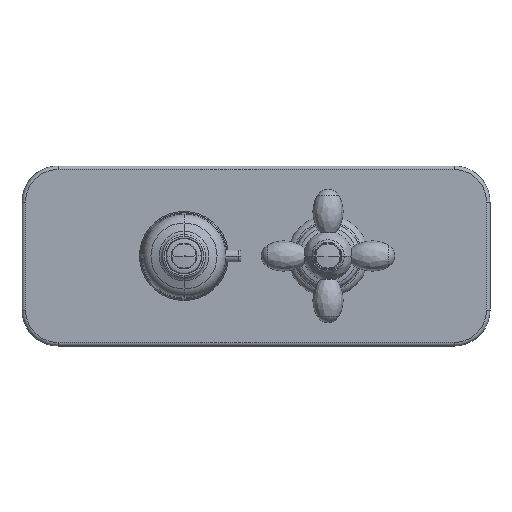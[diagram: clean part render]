
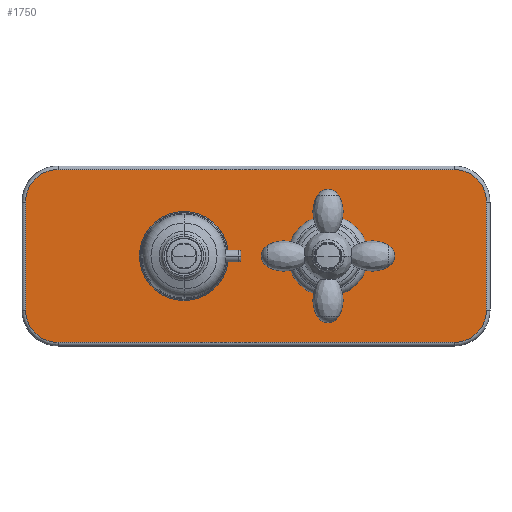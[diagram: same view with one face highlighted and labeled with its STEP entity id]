
A CAD part, left-side view. The second image highlights one B-rep face of the part: STEP entity #1750.
In plain terms, the highlighted planar face has unit normal (-1, 0, 0).
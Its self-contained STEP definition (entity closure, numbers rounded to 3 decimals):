
#283=CARTESIAN_POINT('',(-6.,110.,-30.));
#284=DIRECTION('',(-1.,0.,0.));
#285=DIRECTION('',(0.,1.,0.));
#286=AXIS2_PLACEMENT_3D('',#283,#284,#285);
#288=DIRECTION('',(0.,0.,-1.));
#289=VECTOR('',#288,60.);
#290=CARTESIAN_POINT('',(-6.,128.,30.));
#291=LINE('',#290,#289);
#292=CARTESIAN_POINT('',(-6.,110.,30.));
#293=DIRECTION('',(-1.,0.,0.));
#294=DIRECTION('',(0.,0.,1.));
#295=AXIS2_PLACEMENT_3D('',#292,#293,#294);
#297=DIRECTION('',(0.,1.,0.));
#298=VECTOR('',#297,220.);
#299=CARTESIAN_POINT('',(-6.,-110.,48.));
#300=LINE('',#299,#298);
#301=CARTESIAN_POINT('',(-6.,-110.,30.));
#302=DIRECTION('',(-1.,0.,0.));
#303=DIRECTION('',(0.,-1.,0.));
#304=AXIS2_PLACEMENT_3D('',#301,#302,#303);
#306=DIRECTION('',(0.,0.,1.));
#307=VECTOR('',#306,60.);
#308=CARTESIAN_POINT('',(-6.,-128.,-30.));
#309=LINE('',#308,#307);
#310=CARTESIAN_POINT('',(-6.,-110.,-30.));
#311=DIRECTION('',(-1.,0.,0.));
#312=DIRECTION('',(0.,0.,-1.));
#313=AXIS2_PLACEMENT_3D('',#310,#311,#312);
#315=DIRECTION('',(0.,-1.,0.));
#316=VECTOR('',#315,220.);
#317=CARTESIAN_POINT('',(-6.,110.,-48.));
#318=LINE('',#317,#316);
#319=CARTESIAN_POINT('',(-6.,40.,0.));
#320=DIRECTION('',(1.,0.,0.));
#321=DIRECTION('',(0.,0.,-1.));
#322=AXIS2_PLACEMENT_3D('',#319,#320,#321);
#324=CARTESIAN_POINT('',(-6.,40.,0.));
#325=DIRECTION('',(1.,0.,0.));
#326=DIRECTION('',(0.,0.,1.));
#327=AXIS2_PLACEMENT_3D('',#324,#325,#326);
#329=CARTESIAN_POINT('',(-6.,-40.,0.));
#330=DIRECTION('',(1.,0.,0.));
#331=DIRECTION('',(0.,0.,-1.));
#332=AXIS2_PLACEMENT_3D('',#329,#330,#331);
#334=CARTESIAN_POINT('',(-6.,-40.,0.));
#335=DIRECTION('',(1.,0.,0.));
#336=DIRECTION('',(0.,0.,1.));
#337=AXIS2_PLACEMENT_3D('',#334,#335,#336);
#1126=CARTESIAN_POINT('',(-6.,40.,-20.5));
#1128=VERTEX_POINT('',#1126);
#1130=CARTESIAN_POINT('',(-6.,40.,20.5));
#1132=VERTEX_POINT('',#1130);
#1134=CARTESIAN_POINT('',(-6.,-40.,-20.5));
#1136=VERTEX_POINT('',#1134);
#1138=CARTESIAN_POINT('',(-6.,-40.,20.5));
#1140=VERTEX_POINT('',#1138);
#1321=CARTESIAN_POINT('',(-6.,128.,-30.));
#1322=CARTESIAN_POINT('',(-6.,110.,-48.));
#1323=VERTEX_POINT('',#1321);
#1324=VERTEX_POINT('',#1322);
#1329=CARTESIAN_POINT('',(-6.,-110.,-48.));
#1330=VERTEX_POINT('',#1329);
#1333=CARTESIAN_POINT('',(-6.,-128.,-30.));
#1334=VERTEX_POINT('',#1333);
#1337=CARTESIAN_POINT('',(-6.,-128.,30.));
#1338=VERTEX_POINT('',#1337);
#1341=CARTESIAN_POINT('',(-6.,-110.,48.));
#1342=VERTEX_POINT('',#1341);
#1345=CARTESIAN_POINT('',(-6.,110.,48.));
#1346=VERTEX_POINT('',#1345);
#1349=CARTESIAN_POINT('',(-6.,128.,30.));
#1350=VERTEX_POINT('',#1349);
#1716=CARTESIAN_POINT('',(-6.,0.,0.));
#1717=DIRECTION('',(-1.,0.,0.));
#1718=DIRECTION('',(0.,-1.,0.));
#1719=AXIS2_PLACEMENT_3D('',#1716,#1717,#1718);
#1720=PLANE('',#1719);
#1722=ORIENTED_EDGE('',*,*,#1721,.F.);
#1724=ORIENTED_EDGE('',*,*,#1723,.F.);
#1726=ORIENTED_EDGE('',*,*,#1725,.F.);
#1728=ORIENTED_EDGE('',*,*,#1727,.F.);
#1730=ORIENTED_EDGE('',*,*,#1729,.F.);
#1732=ORIENTED_EDGE('',*,*,#1731,.F.);
#1733=ORIENTED_EDGE('',*,*,#1706,.F.);
#1735=ORIENTED_EDGE('',*,*,#1734,.F.);
#1736=EDGE_LOOP('',(#1722,#1724,#1726,#1728,#1730,#1732,#1733,#1735));
#1737=FACE_OUTER_BOUND('',#1736,.F.);
#1739=ORIENTED_EDGE('',*,*,#1738,.F.);
#1741=ORIENTED_EDGE('',*,*,#1740,.F.);
#1742=EDGE_LOOP('',(#1739,#1741));
#1743=FACE_BOUND('',#1742,.F.);
#1745=ORIENTED_EDGE('',*,*,#1744,.F.);
#1747=ORIENTED_EDGE('',*,*,#1746,.F.);
#1748=EDGE_LOOP('',(#1745,#1747));
#1749=FACE_BOUND('',#1748,.F.);
#1750=ADVANCED_FACE('',(#1737,#1743,#1749),#1720,.T.);
#287=CIRCLE('',#286,18.);
#296=CIRCLE('',#295,18.);
#305=CIRCLE('',#304,18.);
#314=CIRCLE('',#313,18.);
#323=CIRCLE('',#322,20.5);
#328=CIRCLE('',#327,20.5);
#333=CIRCLE('',#332,20.5);
#338=CIRCLE('',#337,20.5);
#1706=EDGE_CURVE('',#1330,#1334,#314,.T.);
#1721=EDGE_CURVE('',#1323,#1324,#287,.T.);
#1723=EDGE_CURVE('',#1350,#1323,#291,.T.);
#1725=EDGE_CURVE('',#1346,#1350,#296,.T.);
#1727=EDGE_CURVE('',#1342,#1346,#300,.T.);
#1729=EDGE_CURVE('',#1338,#1342,#305,.T.);
#1731=EDGE_CURVE('',#1334,#1338,#309,.T.);
#1734=EDGE_CURVE('',#1324,#1330,#318,.T.);
#1738=EDGE_CURVE('',#1128,#1132,#323,.T.);
#1740=EDGE_CURVE('',#1132,#1128,#328,.T.);
#1744=EDGE_CURVE('',#1136,#1140,#333,.T.);
#1746=EDGE_CURVE('',#1140,#1136,#338,.T.);
